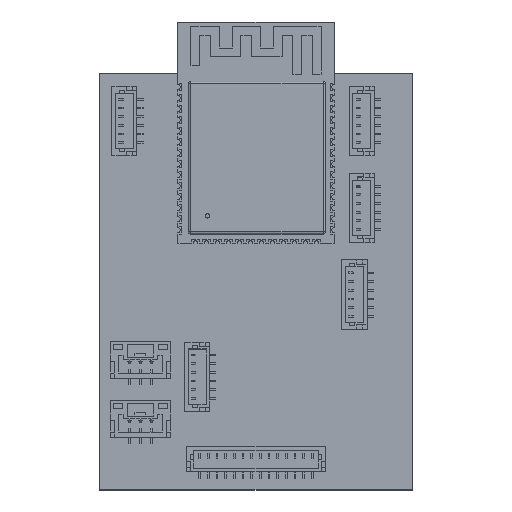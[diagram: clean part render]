
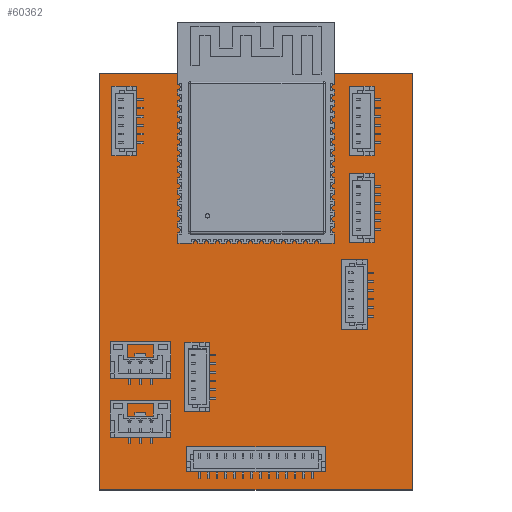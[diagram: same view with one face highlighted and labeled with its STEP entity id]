
A CAD part, top view. The second image highlights one B-rep face of the part: STEP entity #60362.
In plain terms, the highlighted planar face has unit normal (0, 0, 1).
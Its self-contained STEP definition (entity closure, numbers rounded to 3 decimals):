
#60118 = VERTEX_POINT('',#60119);
#60119 = CARTESIAN_POINT('',(36.,-48.,1.11));
#60125 = EDGE_CURVE('',#60118,#60126,#60128,.T.);
#60126 = VERTEX_POINT('',#60127);
#60127 = CARTESIAN_POINT('',(0.,-48.,1.11));
#60128 = LINE('',#60129,#60130);
#60129 = CARTESIAN_POINT('',(36.,-48.,1.11));
#60130 = VECTOR('',#60131,1.);
#60131 = DIRECTION('',(-1.,0.,0.));
#60158 = VERTEX_POINT('',#60159);
#60159 = CARTESIAN_POINT('',(36.,0.,1.11));
#60165 = EDGE_CURVE('',#60158,#60118,#60166,.T.);
#60166 = LINE('',#60167,#60168);
#60167 = CARTESIAN_POINT('',(36.,0.,1.11));
#60168 = VECTOR('',#60169,1.);
#60169 = DIRECTION('',(0.,-1.,0.));
#60187 = EDGE_CURVE('',#60126,#60188,#60190,.T.);
#60188 = VERTEX_POINT('',#60189);
#60189 = CARTESIAN_POINT('',(0.,0.,1.11));
#60190 = LINE('',#60191,#60192);
#60191 = CARTESIAN_POINT('',(0.,-48.,1.11));
#60192 = VECTOR('',#60193,1.);
#60193 = DIRECTION('',(0.,1.,0.));
#60362 = ADVANCED_FACE('',(#60363,#60374,#60385,#60396,#60407,#60418,
    #60429,#60440,#60451,#60462,#60473,#60484,#60495),#60506,.T.);
#60363 = FACE_BOUND('',#60364,.T.);
#60364 = EDGE_LOOP('',(#60365,#60366,#60367,#60373));
#60365 = ORIENTED_EDGE('',*,*,#60125,.F.);
#60366 = ORIENTED_EDGE('',*,*,#60165,.F.);
#60367 = ORIENTED_EDGE('',*,*,#60368,.F.);
#60368 = EDGE_CURVE('',#60188,#60158,#60369,.T.);
#60369 = LINE('',#60370,#60371);
#60370 = CARTESIAN_POINT('',(0.,0.,1.11));
#60371 = VECTOR('',#60372,1.);
#60372 = DIRECTION('',(1.,0.,0.));
#60373 = ORIENTED_EDGE('',*,*,#60187,.F.);
#60374 = FACE_BOUND('',#60375,.T.);
#60375 = EDGE_LOOP('',(#60376));
#60376 = ORIENTED_EDGE('',*,*,#60377,.T.);
#60377 = EDGE_CURVE('',#60378,#60378,#60380,.T.);
#60378 = VERTEX_POINT('',#60379);
#60379 = CARTESIAN_POINT('',(15.8,-10.81,1.11));
#60380 = CIRCLE('',#60381,0.15);
#60381 = AXIS2_PLACEMENT_3D('',#60382,#60383,#60384);
#60382 = CARTESIAN_POINT('',(15.8,-10.66,1.11));
#60383 = DIRECTION('',(-0.,0.,-1.));
#60384 = DIRECTION('',(-0.,-1.,0.));
#60385 = FACE_BOUND('',#60386,.T.);
#60386 = EDGE_LOOP('',(#60387));
#60387 = ORIENTED_EDGE('',*,*,#60388,.T.);
#60388 = EDGE_CURVE('',#60389,#60389,#60391,.T.);
#60389 = VERTEX_POINT('',#60390);
#60390 = CARTESIAN_POINT('',(15.1,-10.11,1.11));
#60391 = CIRCLE('',#60392,0.15);
#60392 = AXIS2_PLACEMENT_3D('',#60393,#60394,#60395);
#60393 = CARTESIAN_POINT('',(15.1,-9.96,1.11));
#60394 = DIRECTION('',(-0.,0.,-1.));
#60395 = DIRECTION('',(-0.,-1.,0.));
#60396 = FACE_BOUND('',#60397,.T.);
#60397 = EDGE_LOOP('',(#60398));
#60398 = ORIENTED_EDGE('',*,*,#60399,.T.);
#60399 = EDGE_CURVE('',#60400,#60400,#60402,.T.);
#60400 = VERTEX_POINT('',#60401);
#60401 = CARTESIAN_POINT('',(16.5,-10.11,1.11));
#60402 = CIRCLE('',#60403,0.15);
#60403 = AXIS2_PLACEMENT_3D('',#60404,#60405,#60406);
#60404 = CARTESIAN_POINT('',(16.5,-9.96,1.11));
#60405 = DIRECTION('',(-0.,0.,-1.));
#60406 = DIRECTION('',(-0.,-1.,0.));
#60407 = FACE_BOUND('',#60408,.T.);
#60408 = EDGE_LOOP('',(#60409));
#60409 = ORIENTED_EDGE('',*,*,#60410,.T.);
#60410 = EDGE_CURVE('',#60411,#60411,#60413,.T.);
#60411 = VERTEX_POINT('',#60412);
#60412 = CARTESIAN_POINT('',(17.2,-10.81,1.11));
#60413 = CIRCLE('',#60414,0.15);
#60414 = AXIS2_PLACEMENT_3D('',#60415,#60416,#60417);
#60415 = CARTESIAN_POINT('',(17.2,-10.66,1.11));
#60416 = DIRECTION('',(-0.,0.,-1.));
#60417 = DIRECTION('',(0.,-1.,0.));
#60418 = FACE_BOUND('',#60419,.T.);
#60419 = EDGE_LOOP('',(#60420));
#60420 = ORIENTED_EDGE('',*,*,#60421,.T.);
#60421 = EDGE_CURVE('',#60422,#60422,#60424,.T.);
#60422 = VERTEX_POINT('',#60423);
#60423 = CARTESIAN_POINT('',(17.2,-9.41,1.11));
#60424 = CIRCLE('',#60425,0.15);
#60425 = AXIS2_PLACEMENT_3D('',#60426,#60427,#60428);
#60426 = CARTESIAN_POINT('',(17.2,-9.26,1.11));
#60427 = DIRECTION('',(-0.,0.,-1.));
#60428 = DIRECTION('',(0.,-1.,0.));
#60429 = FACE_BOUND('',#60430,.T.);
#60430 = EDGE_LOOP('',(#60431));
#60431 = ORIENTED_EDGE('',*,*,#60432,.T.);
#60432 = EDGE_CURVE('',#60433,#60433,#60435,.T.);
#60433 = VERTEX_POINT('',#60434);
#60434 = CARTESIAN_POINT('',(17.9,-10.11,1.11));
#60435 = CIRCLE('',#60436,0.15);
#60436 = AXIS2_PLACEMENT_3D('',#60437,#60438,#60439);
#60437 = CARTESIAN_POINT('',(17.9,-9.96,1.11));
#60438 = DIRECTION('',(-0.,0.,-1.));
#60439 = DIRECTION('',(-0.,-1.,0.));
#60440 = FACE_BOUND('',#60441,.T.);
#60441 = EDGE_LOOP('',(#60442));
#60442 = ORIENTED_EDGE('',*,*,#60443,.T.);
#60443 = EDGE_CURVE('',#60444,#60444,#60446,.T.);
#60444 = VERTEX_POINT('',#60445);
#60445 = CARTESIAN_POINT('',(15.1,-8.71,1.11));
#60446 = CIRCLE('',#60447,0.15);
#60447 = AXIS2_PLACEMENT_3D('',#60448,#60449,#60450);
#60448 = CARTESIAN_POINT('',(15.1,-8.56,1.11));
#60449 = DIRECTION('',(-0.,0.,-1.));
#60450 = DIRECTION('',(-0.,-1.,0.));
#60451 = FACE_BOUND('',#60452,.T.);
#60452 = EDGE_LOOP('',(#60453));
#60453 = ORIENTED_EDGE('',*,*,#60454,.T.);
#60454 = EDGE_CURVE('',#60455,#60455,#60457,.T.);
#60455 = VERTEX_POINT('',#60456);
#60456 = CARTESIAN_POINT('',(15.8,-9.41,1.11));
#60457 = CIRCLE('',#60458,0.15);
#60458 = AXIS2_PLACEMENT_3D('',#60459,#60460,#60461);
#60459 = CARTESIAN_POINT('',(15.8,-9.26,1.11));
#60460 = DIRECTION('',(-0.,0.,-1.));
#60461 = DIRECTION('',(-0.,-1.,0.));
#60462 = FACE_BOUND('',#60463,.T.);
#60463 = EDGE_LOOP('',(#60464));
#60464 = ORIENTED_EDGE('',*,*,#60465,.T.);
#60465 = EDGE_CURVE('',#60466,#60466,#60468,.T.);
#60466 = VERTEX_POINT('',#60467);
#60467 = CARTESIAN_POINT('',(16.5,-8.71,1.11));
#60468 = CIRCLE('',#60469,0.15);
#60469 = AXIS2_PLACEMENT_3D('',#60470,#60471,#60472);
#60470 = CARTESIAN_POINT('',(16.5,-8.56,1.11));
#60471 = DIRECTION('',(-0.,0.,-1.));
#60472 = DIRECTION('',(-0.,-1.,0.));
#60473 = FACE_BOUND('',#60474,.T.);
#60474 = EDGE_LOOP('',(#60475));
#60475 = ORIENTED_EDGE('',*,*,#60476,.T.);
#60476 = EDGE_CURVE('',#60477,#60477,#60479,.T.);
#60477 = VERTEX_POINT('',#60478);
#60478 = CARTESIAN_POINT('',(15.8,-8.01,1.11));
#60479 = CIRCLE('',#60480,0.15);
#60480 = AXIS2_PLACEMENT_3D('',#60481,#60482,#60483);
#60481 = CARTESIAN_POINT('',(15.8,-7.86,1.11));
#60482 = DIRECTION('',(-0.,0.,-1.));
#60483 = DIRECTION('',(-0.,-1.,0.));
#60484 = FACE_BOUND('',#60485,.T.);
#60485 = EDGE_LOOP('',(#60486));
#60486 = ORIENTED_EDGE('',*,*,#60487,.T.);
#60487 = EDGE_CURVE('',#60488,#60488,#60490,.T.);
#60488 = VERTEX_POINT('',#60489);
#60489 = CARTESIAN_POINT('',(17.9,-8.71,1.11));
#60490 = CIRCLE('',#60491,0.15);
#60491 = AXIS2_PLACEMENT_3D('',#60492,#60493,#60494);
#60492 = CARTESIAN_POINT('',(17.9,-8.56,1.11));
#60493 = DIRECTION('',(-0.,0.,-1.));
#60494 = DIRECTION('',(-0.,-1.,0.));
#60495 = FACE_BOUND('',#60496,.T.);
#60496 = EDGE_LOOP('',(#60497));
#60497 = ORIENTED_EDGE('',*,*,#60498,.T.);
#60498 = EDGE_CURVE('',#60499,#60499,#60501,.T.);
#60499 = VERTEX_POINT('',#60500);
#60500 = CARTESIAN_POINT('',(17.2,-8.01,1.11));
#60501 = CIRCLE('',#60502,0.15);
#60502 = AXIS2_PLACEMENT_3D('',#60503,#60504,#60505);
#60503 = CARTESIAN_POINT('',(17.2,-7.86,1.11));
#60504 = DIRECTION('',(-0.,0.,-1.));
#60505 = DIRECTION('',(0.,-1.,0.));
#60506 = PLANE('',#60507);
#60507 = AXIS2_PLACEMENT_3D('',#60508,#60509,#60510);
#60508 = CARTESIAN_POINT('',(0.,0.,1.11));
#60509 = DIRECTION('',(0.,0.,1.));
#60510 = DIRECTION('',(1.,0.,-0.));
